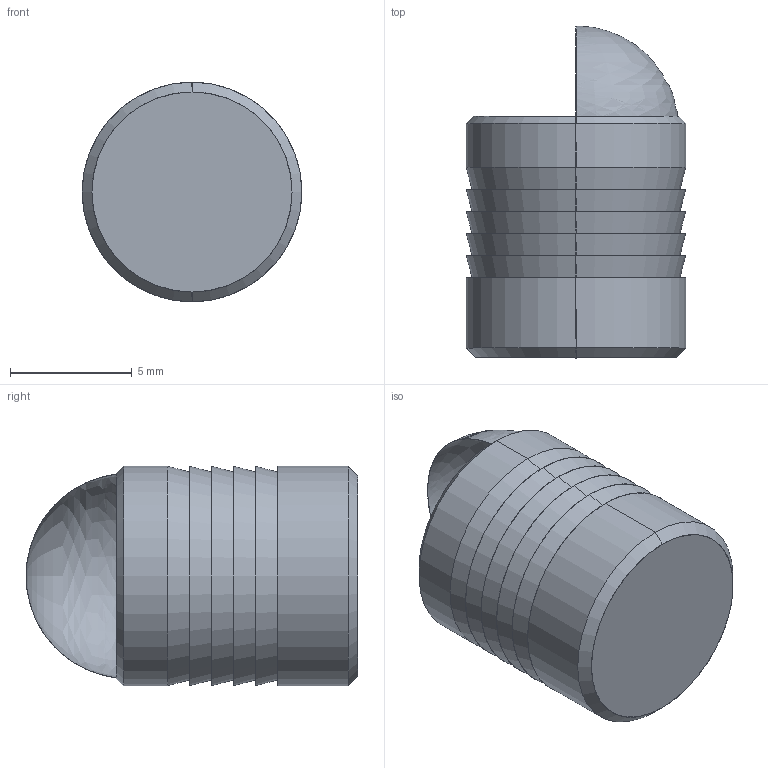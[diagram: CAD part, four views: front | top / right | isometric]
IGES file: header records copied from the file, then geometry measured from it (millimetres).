
Start section: SolidWorks IGES file using analytic representation for surfaces
Global section: file name: C:\Users\IanO\Desktop\P0190_v2\P0190_v2_20230321_IGES\P0190.090-A2-BS.igs; native system: SolidWorks 2019; preprocessor: SolidWorks 2019; author: IanO; date: 231219.161337; units: millimetre
Bounding box: 9 x 13.6 x 9 mm (x, y, z)
Surface area: 703.9 mm2 (no closed solid volume)
Topology: 0 solids, 0 shells, 28 faces, 440 edges, 437 vertices
Faces by surface type: revolution 22, bspline 6
